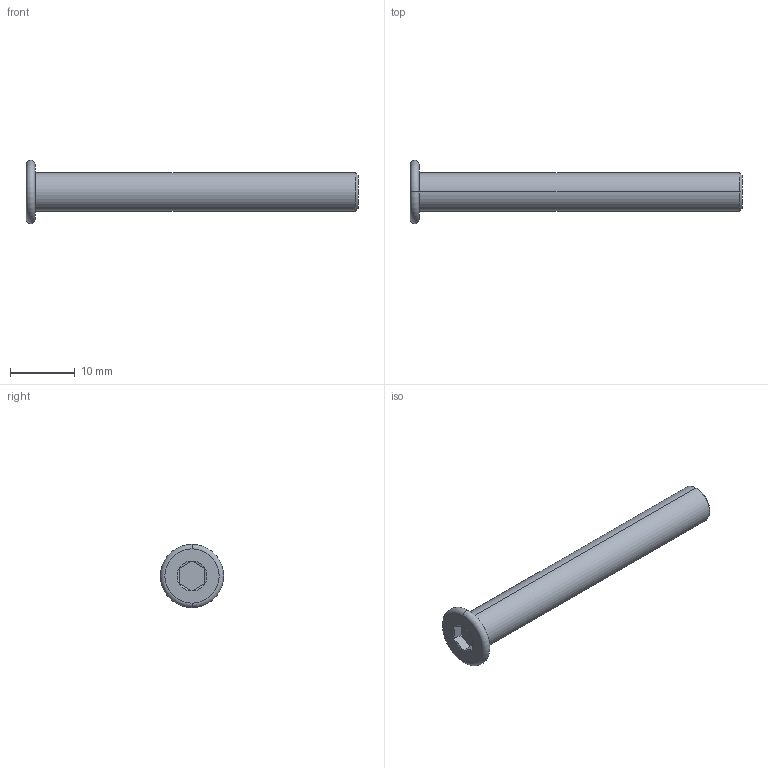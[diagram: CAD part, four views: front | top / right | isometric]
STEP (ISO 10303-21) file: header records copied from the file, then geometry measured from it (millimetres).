
FILE_DESCRIPTION (( 'STEP AP203' ), '1' );
FILE_NAME ('LGD-304M-M6x50.STEP', '2026-08-13T12:59:37', ( '' ), ( '' ), 'SwSTEP 2.0', 'SolidWorks 2020', '' );
FILE_SCHEMA (( 'CONFIG_CONTROL_DESIGN' ));
Length unit declared in the file: millimetre
Products named in the file (1): LGD-304M-M6x50
Bounding box: 51.4 x 9.8 x 9.8 mm (x, y, z)
Volume: 1489.4 mm3; surface area: 1133.4 mm2
Topology: 1 solids, 1 shells, 24 faces, 44 edges, 24 vertices
Faces by surface type: plane 10, cone 8, torus 4, cylinder 2
Entity records: 673 total; most frequent: CARTESIAN_POINT 119, DIRECTION 110, ORIENTED_EDGE 88, AXIS2_PLACEMENT_3D 47, EDGE_CURVE 44, EDGE_LOOP 26, VERTEX_POINT 24, FACE_OUTER_BOUND 24
